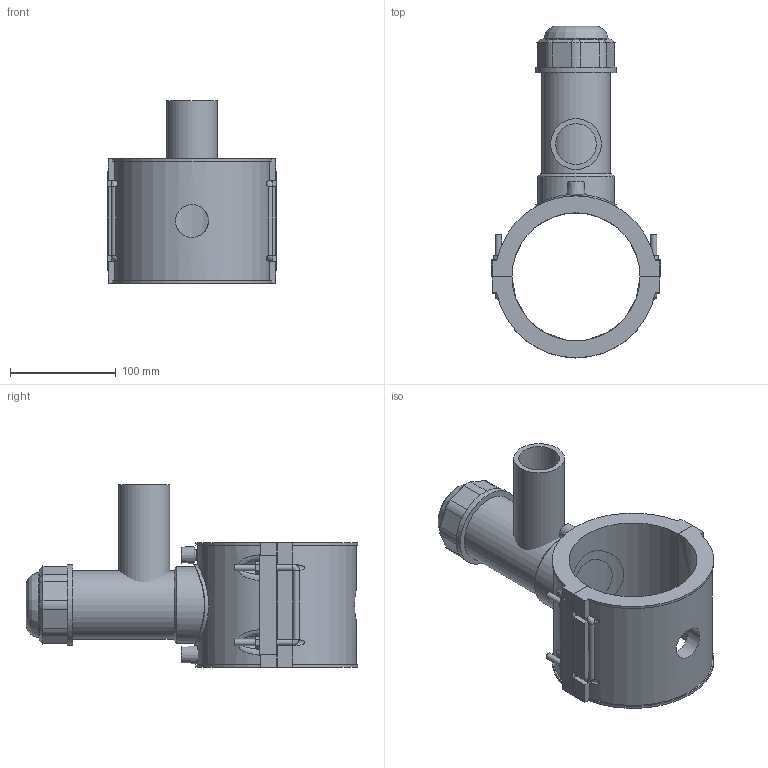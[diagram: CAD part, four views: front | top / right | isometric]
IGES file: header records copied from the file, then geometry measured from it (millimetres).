
Global section: file name: 5963DBP3040015.ipt; native system: Autodesk Inventor 2019; preprocessor: unknown; author: KIM; date: 20210830.101643; units: inch
Bounding box: 161 x 314.4 x 173.1 mm (x, y, z)
Volume: 1200164.2 mm3; surface area: 239209.7 mm2
Topology: 4 solids, 4 shells, 194 faces, 481 edges, 312 vertices
Faces by surface type: plane 118, cylinder 36, revolution 21, cone 15, bspline 4
Full cylindrical faces by diameter (mm): 4 x2, 6 x8, 48.1 x1, 61.135 x1, 64.956 x1, 72.598 x1, 76.419 x2
